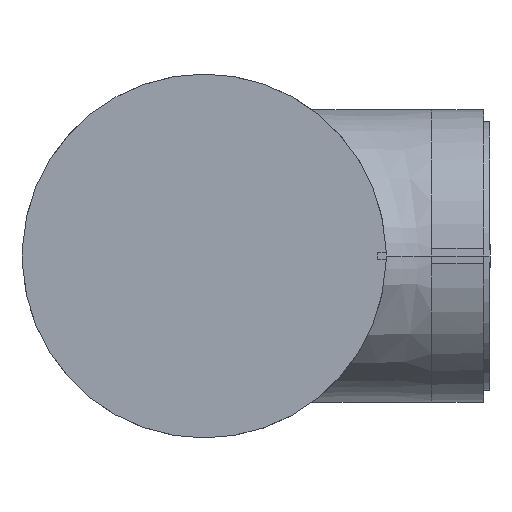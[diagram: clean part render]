
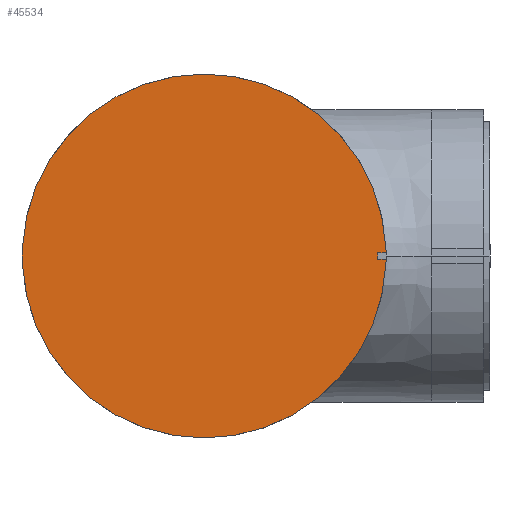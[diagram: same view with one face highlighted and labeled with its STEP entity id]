
A CAD part, left-side view. The second image highlights one B-rep face of the part: STEP entity #45534.
In plain terms, the highlighted planar face has unit normal (-1, 0, 0).
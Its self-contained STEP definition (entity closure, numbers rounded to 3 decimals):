
#435 = DIRECTION ( 'NONE',  ( -1., 0., 0. ) ) ;
#445 = DIRECTION ( 'NONE',  ( 0., 0., 1. ) ) ;
#2294 = CIRCLE ( 'NONE', #9010, 53.5 ) ;
#2922 = DIRECTION ( 'NONE',  ( 0., 0., 1. ) ) ;
#3023 = ORIENTED_EDGE ( 'NONE', *, *, #48855, .F. ) ;
#3081 = CARTESIAN_POINT ( 'NONE',  ( 261., -20.977, 1075. ) ) ;
#4500 = ORIENTED_EDGE ( 'NONE', *, *, #58410, .T. ) ;
#5120 = CARTESIAN_POINT ( 'NONE',  ( 261., 35.1, 1131. ) ) ;
#5389 = DIRECTION ( 'NONE',  ( 0., 1., 0. ) ) ;
#5756 = VERTEX_POINT ( 'NONE', #53384 ) ;
#6845 = ORIENTED_EDGE ( 'NONE', *, *, #23282, .F. ) ;
#9010 = AXIS2_PLACEMENT_3D ( 'NONE', #10187, #18610, #5389 ) ;
#9211 = VERTEX_POINT ( 'NONE', #9743 ) ;
#9603 = VERTEX_POINT ( 'NONE', #59177 ) ;
#9639 = CARTESIAN_POINT ( 'NONE',  ( 261., -20.823, 1072.069 ) ) ;
#9743 = CARTESIAN_POINT ( 'NONE',  ( 261., -20.823, 1077.931 ) ) ;
#10187 = CARTESIAN_POINT ( 'NONE',  ( 261., 35.1, 1075. ) ) ;
#10317 = CARTESIAN_POINT ( 'NONE',  ( 261., 91.023, 1072.069 ) ) ;
#10915 = ORIENTED_EDGE ( 'NONE', *, *, #25331, .T. ) ;
#11686 = CIRCLE ( 'NONE', #19386, 56. ) ;
#12293 = LINE ( 'NONE', #30649, #55292 ) ;
#13281 = VERTEX_POINT ( 'NONE', #45848 ) ;
#14539 = LINE ( 'NONE', #10317, #38256 ) ;
#15547 = CARTESIAN_POINT ( 'NONE',  ( 261., 35.1, 1075. ) ) ;
#15718 = VERTEX_POINT ( 'NONE', #5120 ) ;
#17102 = DIRECTION ( 'NONE',  ( 0., 0.052, 0.999 ) ) ;
#17649 = EDGE_LOOP ( 'NONE', ( #6845, #4500, #3023, #43148, #47954, #35759, #10915, #38268, #20838, #23718 ) ) ;
#18275 = EDGE_CURVE ( 'NONE', #9603, #55503, #25182, .T. ) ;
#18610 = DIRECTION ( 'NONE',  ( -1., 0., 0. ) ) ;
#18749 = PLANE ( 'NONE',  #19896 ) ;
#19067 = EDGE_CURVE ( 'NONE', #55503, #13281, #49056, .T. ) ;
#19386 = AXIS2_PLACEMENT_3D ( 'NONE', #15547, #56995, #51313 ) ;
#19896 = AXIS2_PLACEMENT_3D ( 'NONE', #36197, #55106, #445 ) ;
#20372 = AXIS2_PLACEMENT_3D ( 'NONE', #23548, #435, #27766 ) ;
#20838 = ORIENTED_EDGE ( 'NONE', *, *, #18275, .T. ) ;
#21330 = CARTESIAN_POINT ( 'NONE',  ( 261., -18.391, 1076. ) ) ;
#21995 = VERTEX_POINT ( 'NONE', #28932 ) ;
#22423 = EDGE_CURVE ( 'NONE', #15718, #21995, #11686, .T. ) ;
#22874 = CARTESIAN_POINT ( 'NONE',  ( 261., -16.9, 1074. ) ) ;
#23282 = EDGE_CURVE ( 'NONE', #41750, #13281, #50219, .T. ) ;
#23548 = CARTESIAN_POINT ( 'NONE',  ( 261., 35.1, 1075. ) ) ;
#23718 = ORIENTED_EDGE ( 'NONE', *, *, #19067, .T. ) ;
#24179 = EDGE_CURVE ( 'NONE', #29572, #9603, #14539, .T. ) ;
#24882 = EDGE_CURVE ( 'NONE', #5756, #9211, #12293, .T. ) ;
#25182 = CIRCLE ( 'NONE', #20372, 56. ) ;
#25331 = EDGE_CURVE ( 'NONE', #21995, #29572, #34263, .T. ) ;
#26204 = CARTESIAN_POINT ( 'NONE',  ( 261., 91.177, 1075. ) ) ;
#27766 = DIRECTION ( 'NONE',  ( 0., 0., 1. ) ) ;
#27898 = CARTESIAN_POINT ( 'NONE',  ( 261., -18.391, 1074. ) ) ;
#28074 = VECTOR ( 'NONE', #36121, 1000. ) ;
#28932 = CARTESIAN_POINT ( 'NONE',  ( 261., 91.023, 1077.931 ) ) ;
#29004 = AXIS2_PLACEMENT_3D ( 'NONE', #57583, #57878, #2922 ) ;
#29572 = VERTEX_POINT ( 'NONE', #26204 ) ;
#30356 = CARTESIAN_POINT ( 'NONE',  ( 261., 91.023, 1077.931 ) ) ;
#30649 = CARTESIAN_POINT ( 'NONE',  ( 261., -20.977, 1075. ) ) ;
#34263 = LINE ( 'NONE', #30356, #53347 ) ;
#35759 = ORIENTED_EDGE ( 'NONE', *, *, #22423, .T. ) ;
#35848 = LINE ( 'NONE', #49083, #47661 ) ;
#36121 = DIRECTION ( 'NONE',  ( 0., -0.052, 0.999 ) ) ;
#36197 = CARTESIAN_POINT ( 'NONE',  ( 261., 35.1, 1075. ) ) ;
#38256 = VECTOR ( 'NONE', #55992, 1000. ) ;
#38268 = ORIENTED_EDGE ( 'NONE', *, *, #24179, .T. ) ;
#39535 = VECTOR ( 'NONE', #41206, 1000. ) ;
#40777 = EDGE_CURVE ( 'NONE', #9211, #15718, #48172, .T. ) ;
#41206 = DIRECTION ( 'NONE',  ( 0., -1., 0. ) ) ;
#41750 = VERTEX_POINT ( 'NONE', #27898 ) ;
#43148 = ORIENTED_EDGE ( 'NONE', *, *, #24882, .T. ) ;
#44171 = DIRECTION ( 'NONE',  ( 0., 0.052, -0.999 ) ) ;
#45534 = ADVANCED_FACE ( 'NONE', ( #50907 ), #18749, .T. ) ;
#45848 = CARTESIAN_POINT ( 'NONE',  ( 261., -20.924, 1074. ) ) ;
#46488 = VERTEX_POINT ( 'NONE', #21330 ) ;
#47661 = VECTOR ( 'NONE', #57769, 1000. ) ;
#47954 = ORIENTED_EDGE ( 'NONE', *, *, #40777, .T. ) ;
#48172 = CIRCLE ( 'NONE', #29004, 56. ) ;
#48855 = EDGE_CURVE ( 'NONE', #5756, #46488, #35848, .T. ) ;
#49056 = LINE ( 'NONE', #3081, #28074 ) ;
#49083 = CARTESIAN_POINT ( 'NONE',  ( 261., -26.9, 1076. ) ) ;
#50219 = LINE ( 'NONE', #22874, #39535 ) ;
#50907 = FACE_OUTER_BOUND ( 'NONE', #17649, .T. ) ;
#51313 = DIRECTION ( 'NONE',  ( 0., 0., 1. ) ) ;
#53347 = VECTOR ( 'NONE', #44171, 1000. ) ;
#53384 = CARTESIAN_POINT ( 'NONE',  ( 261., -20.924, 1076. ) ) ;
#55106 = DIRECTION ( 'NONE',  ( -1., 0., 0. ) ) ;
#55292 = VECTOR ( 'NONE', #17102, 1000. ) ;
#55503 = VERTEX_POINT ( 'NONE', #9639 ) ;
#55992 = DIRECTION ( 'NONE',  ( 0., -0.052, -0.999 ) ) ;
#56995 = DIRECTION ( 'NONE',  ( -1., 0., 0. ) ) ;
#57583 = CARTESIAN_POINT ( 'NONE',  ( 261., 35.1, 1075. ) ) ;
#57769 = DIRECTION ( 'NONE',  ( 0., 1., 0. ) ) ;
#57878 = DIRECTION ( 'NONE',  ( -1., 0., 0. ) ) ;
#58410 = EDGE_CURVE ( 'NONE', #41750, #46488, #2294, .T. ) ;
#59177 = CARTESIAN_POINT ( 'NONE',  ( 261., 91.023, 1072.069 ) ) ;
